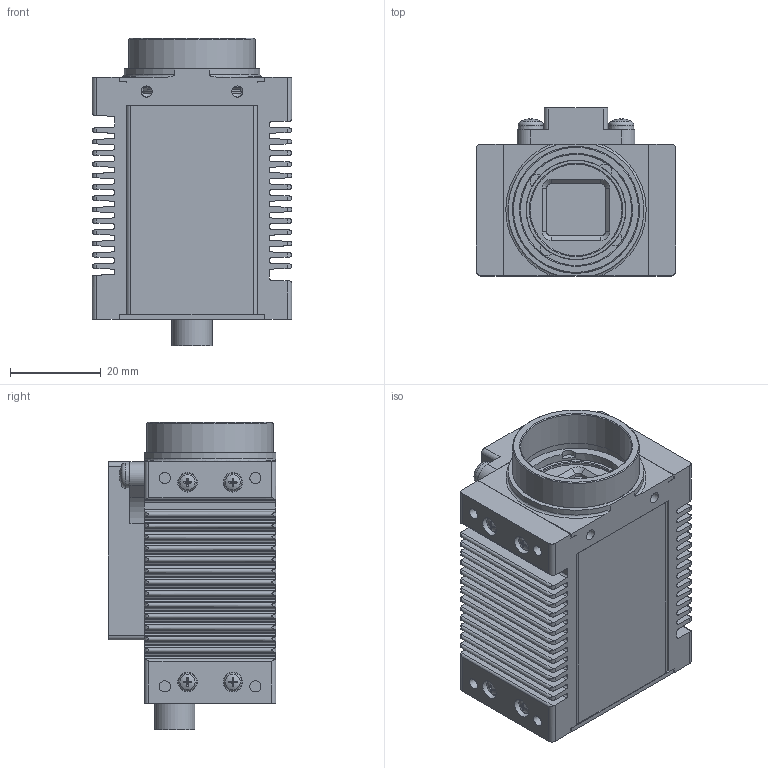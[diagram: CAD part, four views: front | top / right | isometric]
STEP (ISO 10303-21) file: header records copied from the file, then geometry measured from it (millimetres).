
FILE_DESCRIPTION(/* description */ (''),/* implementation_level */ '2;1');
FILE_NAME(/* name */ 'D:\HiDrive\1_Konstruktion\1_KUNDEN\TIS\139-12_135-12_124-11_121-11_FPGA-Kamera\121-15-5_FPGA-Kam-RJ45_1Z-Sens_13,3_Kühlrippen\IPT und STEP Ableitungen für Kunden\121-15-52\121-15-52_FPGA_C-FP_RJ45_1Zoll_18,3_ER-11,7_Kühlrip.stp',/* time_stamp */ '2017-10-20T17:39:16+02:00',/* author */ ('khw'),/* organization */ (''),/* preprocessor_version */ 'ST-DEVELOPER v16.5',/* originating_system */ 'Autodesk Inventor 2017',/* authorisation */ '');
FILE_SCHEMA (('AUTOMOTIVE_DESIGN { 1 0 10303 214 3 1 1 }'));
Length unit declared in the file: millimetre
Products named in the file (4): 3_121-15-52_FPGA_C-FP_RJ45_1Zoll_18,3_ER-11,7_m.Trip; 2_121-15-52_FPGA_C-FP_RJ45_1Zoll_18,3_ER-11,7_Ableit v.1; 121-11-2-00-02(TripodAdapter); ISO 7045 - M3 x 6 - 4.8 - H
Assembly tree (5 placements, depth 2):
  3_121-15-52_FPGA_C-FP_RJ45_1Zoll_18,3_ER-11,7_m.Trip
    2_121-15-52_FPGA_C-FP_RJ45_1Zoll_18,3_ER-11,7_Ableit v.1
    121-11-2-00-02(TripodAdapter)
    ISO 7045 - M3 x 6 - 4.8 - H  x3
Bounding box: 44 x 37 x 67.85 mm (x, y, z)
Volume: 34110.9 mm3; surface area: 36650 mm2
Topology: 6 solids, 24 shells, 1410 faces, 3843 edges, 2521 vertices
Faces by surface type: plane 669, cylinder 393, cone 233, torus 82, sphere 19, bspline 14
Full cylindrical faces by diameter (mm): 0.45 x8, 0.6 x6, 0.8 x6, 1 x1, 1.183 x4, 1.221 x2, 1.567 x18, 1.755 x4, 1.783 x8, 2 x8, 2.2 x4, 2.3 x8, 2.4 x2, 2.459 x13, 2.729 x3, 3 x3, 3.3 x3, 3.5 x4, 3.8 x4, 4.3 x8, 4.917 x2, 4.978 x1, 6 x1, 7.76 x1, 8.85 x1, 11 x1, 12 x1, 20.2 x1, 21.9 x1, 22 x2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
Entity records: 44350 total; most frequent: CARTESIAN_POINT 9742, DIRECTION 7006, ORIENTED_EDGE 6714, EDGE_CURVE 3357, AXIS2_PLACEMENT_3D 2654, VERTEX_POINT 2326, LINE 1698, VECTOR 1698
